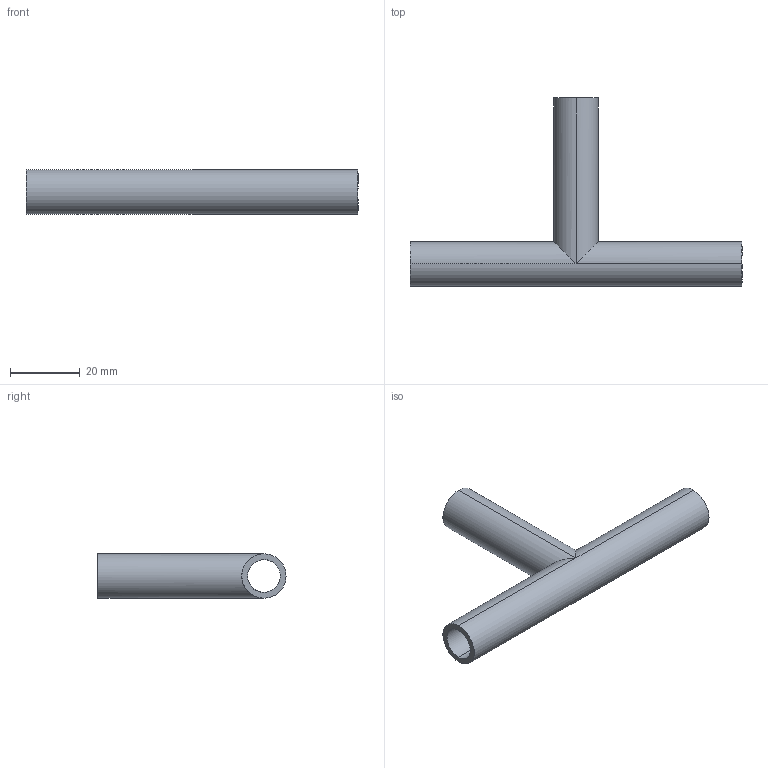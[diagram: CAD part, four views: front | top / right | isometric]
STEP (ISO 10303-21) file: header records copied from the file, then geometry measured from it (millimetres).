
FILE_DESCRIPTION (( 'STEP AP214' ), '1' );
FILE_NAME ('TE7WWW6L.5-...STEP', '2016-05-23T06:12:31', ( 'eran' ), ( '' ), 'SwSTEP 2.0', 'SolidWorks 2016', '' );
FILE_SCHEMA (( 'AUTOMOTIVE_DESIGN' ));
Length unit declared in the file: millimetre
Products named in the file (1): TE7WWW6L.5-..
Bounding box: 95.2 x 53.95 x 12.7 mm (x, y, z)
Volume: 7776.2 mm3; surface area: 9591 mm2
Topology: 1 solids, 1 shells, 13 faces, 28 edges, 16 vertices
Faces by surface type: cylinder 10, plane 3
Entity records: 1130 total; most frequent: CARTESIAN_POINT 831, ORIENTED_EDGE 56, DIRECTION 46, EDGE_CURVE 28, AXIS2_PLACEMENT_3D 17, VERTEX_POINT 16, EDGE_LOOP 16, B_SPLINE_CURVE_WITH_KNOTS 13
